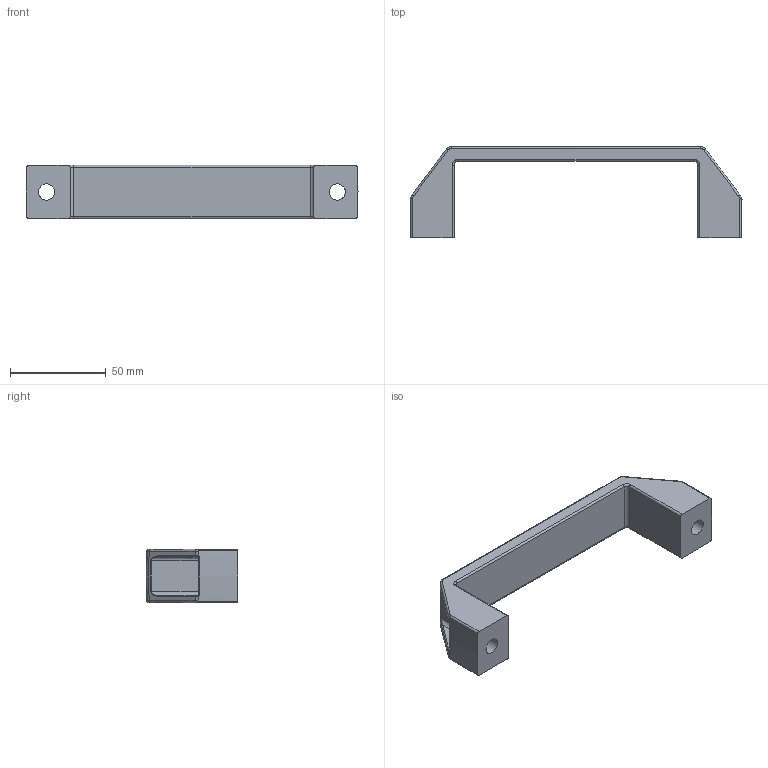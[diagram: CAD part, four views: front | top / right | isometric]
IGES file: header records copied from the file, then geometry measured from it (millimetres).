
Global section: file name: DR_A-AP152; native system: Autodesk Inventor 2015; preprocessor: unknown; author: Administrator; date: 20170706.113848; units: millimetre
Bounding box: 173.5 x 48 x 28 mm (x, y, z)
Volume: 60706.7 mm3; surface area: 21138 mm2
Topology: 1 solids, 1 shells, 110 faces, 262 edges, 152 vertices
Faces by surface type: bspline 110
